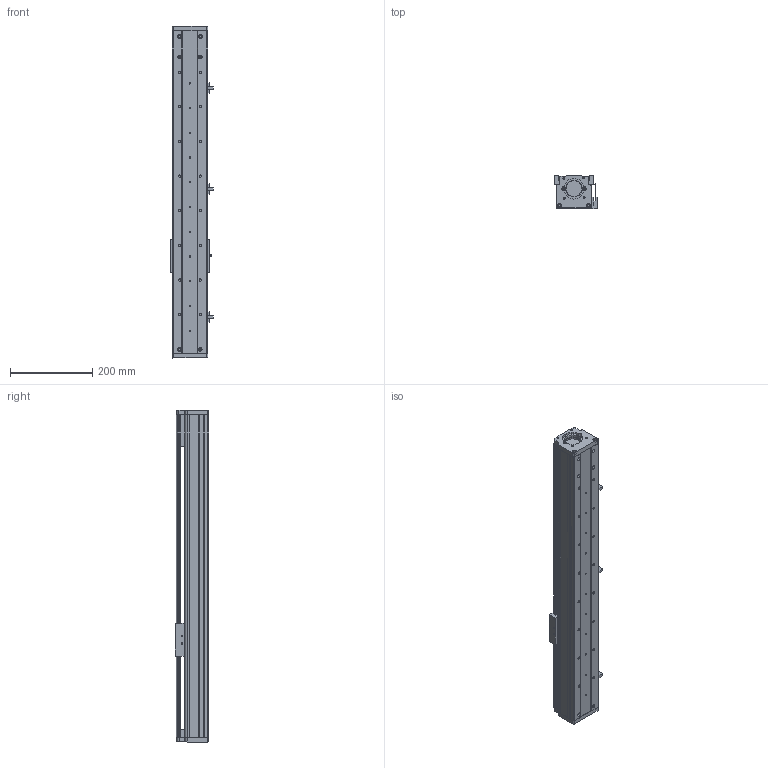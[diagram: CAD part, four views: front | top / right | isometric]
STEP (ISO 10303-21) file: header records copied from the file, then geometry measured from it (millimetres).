
FILE_DESCRIPTION (( 'STEP AP214' ), '1' );
FILE_NAME ('CF86-C-550-FW.STEP', '2020-01-15T07:54:35', ( '微软用户' ), ( '微软中国' ), 'SwSTEP 2.0', 'SolidWorks 2016', '' );
FILE_SCHEMA (( 'AUTOMOTIVE_DESIGN' ));
Length unit declared in the file: millimetre
Products named in the file (12): 嫖萇羲壽; 75-86-95癹弇羲壽覜茼え; 86-60侜督萇儂釱(蜊輛); CF86賑輸; 02 86盓傅釱; 01 86嘐隅釱; EGW15CA賑輸; EGR15絳寢-550; 86臏倰第-550; 86裔啣-550; 86耜啣; CF86-C-550-FW
Assembly tree (13 placements, depth 2):
  CF86-C-550-FW
    86耜啣
    86裔啣-550
    86臏倰第-550
    EGR15絳寢-550
    EGW15CA賑輸
    01 86嘐隅釱
    02 86盓傅釱
    CF86賑輸
    86-60侜督萇儂釱(蜊輛)
    75-86-95癹弇羲壽覜茼え
    嫖萇羲壽  x3
Bounding box: 103.85 x 81 x 805 mm (x, y, z)
Volume: 2117183.2 mm3; surface area: 712556.1 mm2
Topology: 13 solids, 13 shells, 707 faces, 1906 edges, 1268 vertices
Faces by surface type: plane 362, cylinder 345
Entity records: 22676 total; most frequent: CARTESIAN_POINT 3855, DIRECTION 3746, ORIENTED_EDGE 3524, EDGE_CURVE 1762, AXIS2_PLACEMENT_3D 1359, VERTEX_POINT 1172, VECTOR 1028, LINE 1028
